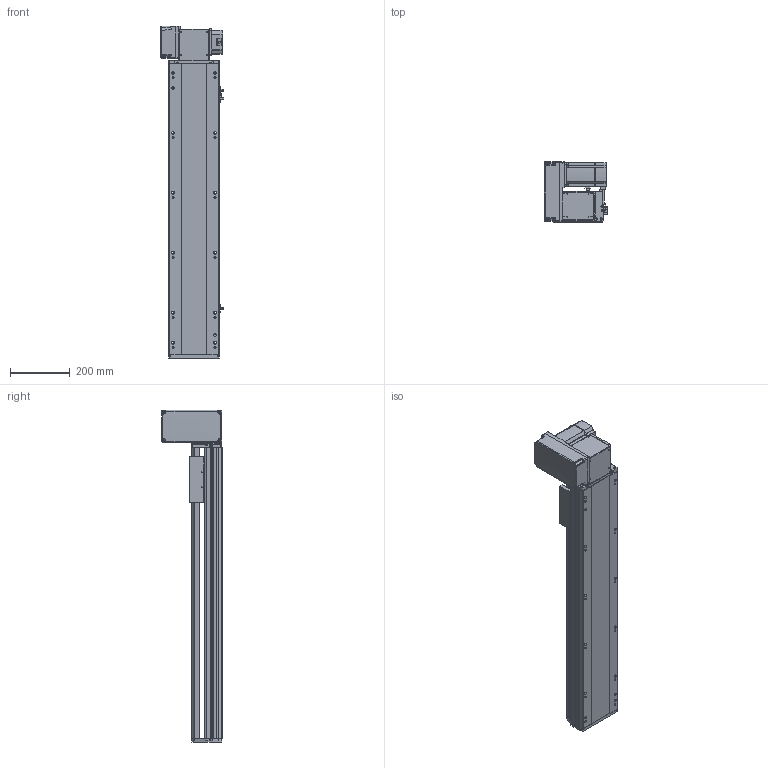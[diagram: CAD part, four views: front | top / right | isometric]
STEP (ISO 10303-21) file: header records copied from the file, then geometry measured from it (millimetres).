
FILE_DESCRIPTION (( 'STEP AP214' ), '1' );
FILE_NAME ('RTB17S-XX-700-LW-M75-C4.STEP', '2025-12-12T01:02:15', ( '' ), ( '' ), 'SwSTEP 2.0', 'SolidWorks 2018', '' );
FILE_SCHEMA (( 'AUTOMOTIVE_DESIGN' ));
Length unit declared in the file: millimetre
Products named in the file (15): RTB17S-賑釱^RTB17S-XX-XX-LW-M75-C4; RTB22S-GY-008-M75--萇儂啣^RTB17S-LW-々湍釱蚾饜-750W_RTB17S-XX-XX-LW-M75-C4; RTB17S-L-004-賑釱^RTB17S-賑釱_RTB17S-XX-XX-LW-M75-C4; RTH13-BL-012覜茼え俋离^RTB17S-賑釱_RTB17S-XX-XX-LW-M75-C4; EE672^RTB17S-XX-XX-LW-M75-C4; RTB17S-L-001-耜醱啣^RTB17S-XX-XX-LW-M75-C4; RTB22S-GY-018P^RTB17S-LW-々湍釱蚾饜-750W_RTB17S-XX-XX-LW-M75-C4; RTB17S-XX-700-LW-M75-C4; RTB17S-L-014-T20-P75--々湍釱^RTB17S-LW-々湍釱蚾饜-750W_RTB17S-XX-XX-LW-M75-C4; 750W萇儂^RTB17S-XX-XX-LW-M75-C4; RTB22S-GY-005P^RTB17S-LW-々湍釱蚾饜-750W_RTB17S-XX-XX-LW-M75-C4; RTB17-R-011菁釱^RTB17S-XX-XX-LW-M75-C4; RTB22S-GY-017P^RTB17S-LW-々湍釱蚾饜-750W_RTB17S-XX-XX-LW-M75-C4; RTB17S-LW-々湍釱蚾饜-750W^RTB17S-XX-XX-LW-M75-C4; RTB17S-L-007奻裔^RTB17S-XX-XX-LW-M75-C4
Assembly tree (17 placements, depth 3):
  RTB17S-XX-700-LW-M75-C4
    RTB17-R-011菁釱^RTB17S-XX-XX-LW-M75-C4
    EE672^RTB17S-XX-XX-LW-M75-C4  x3
    RTB17S-L-001-耜醱啣^RTB17S-XX-XX-LW-M75-C4
    RTB17S-賑釱^RTB17S-XX-XX-LW-M75-C4
      RTB17S-L-004-賑釱^RTB17S-賑釱_RTB17S-XX-XX-LW-M75-C4
      RTH13-BL-012覜茼え俋离^RTB17S-賑釱_RTB17S-XX-XX-LW-M75-C4
    RTB17S-L-007奻裔^RTB17S-XX-XX-LW-M75-C4
    750W萇儂^RTB17S-XX-XX-LW-M75-C4
    RTB17S-LW-々湍釱蚾饜-750W^RTB17S-XX-XX-LW-M75-C4
      RTB17S-L-014-T20-P75--々湍釱^RTB17S-LW-々湍釱蚾饜-750W_RTB17S-XX-XX-LW-M75-C4
      RTB22S-GY-005P^RTB17S-LW-々湍釱蚾饜-750W_RTB17S-XX-XX-LW-M75-C4
      RTB22S-GY-017P^RTB17S-LW-々湍釱蚾饜-750W_RTB17S-XX-XX-LW-M75-C4  x2
      RTB22S-GY-008-M75--萇儂啣^RTB17S-LW-々湍釱蚾饜-750W_RTB17S-XX-XX-LW-M75-C4
      RTB22S-GY-018P^RTB17S-LW-々湍釱蚾饜-750W_RTB17S-XX-XX-LW-M75-C4
Bounding box: 210.4 x 201.5 x 1107.5 mm (x, y, z)
Volume: 10323170.3 mm3; surface area: 1703319.6 mm2
Topology: 17 solids, 17 shells, 2073 faces, 5728 edges, 3698 vertices
Faces by surface type: plane 968, cylinder 689, bspline 294, cone 110, sphere 8, torus 4
Entity records: 57334 total; most frequent: CARTESIAN_POINT 16792, ORIENTED_EDGE 8300, DIRECTION 7772, EDGE_CURVE 4150, AXIS2_PLACEMENT_3D 2718, VERTEX_POINT 2702, LINE 2336, VECTOR 2336
